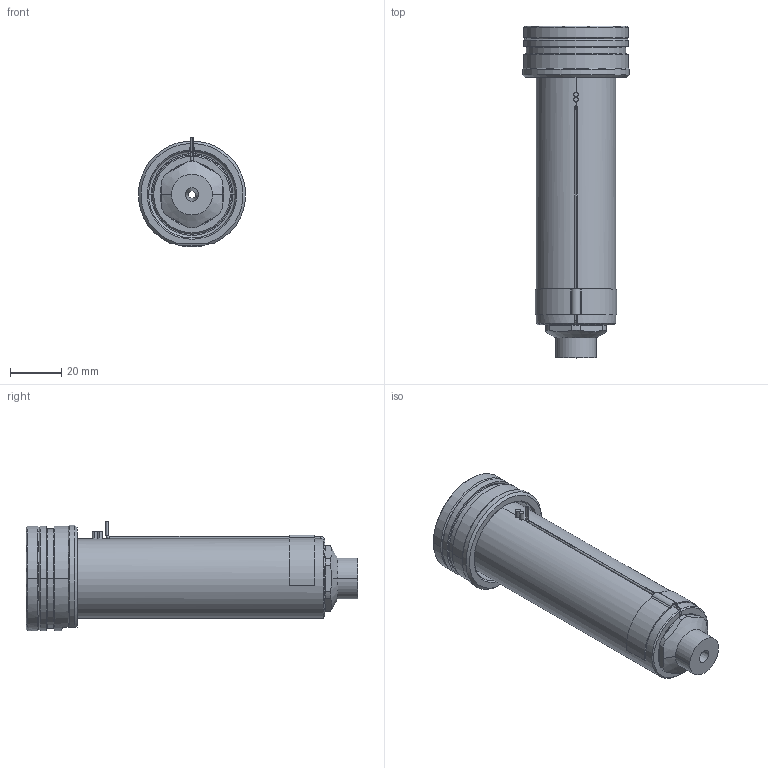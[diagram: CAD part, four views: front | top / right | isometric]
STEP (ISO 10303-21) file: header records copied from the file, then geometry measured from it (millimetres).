
FILE_DESCRIPTION((''),'2;1');
FILE_NAME('EO12_SG_SG_110_SW','2024-02-19T12:28:18',('sundharh'),(''),'CREO PARAMETRIC BY PTC INC, 2023154','CREO PARAMETRIC BY PTC INC, 2023154','');
FILE_SCHEMA(('CONFIG_CONTROL_DESIGN'));
Length unit declared in the file: millimetre
Products named in the file (1): EO12_SG_SG_110_SW
Bounding box: 41.85 x 130 x 43 mm (x, y, z)
Volume: 87596.3 mm3; surface area: 24264.3 mm2
Topology: 2 solids, 3 shells, 177 faces, 448 edges, 273 vertices
Faces by surface type: cylinder 65, plane 46, cone 33, torus 27, sphere 3, bspline 3
Entity records: 6028 total; most frequent: CARTESIAN_POINT 1676, DIRECTION 956, ORIENTED_EDGE 888, EDGE_CURVE 444, AXIS2_PLACEMENT_3D 399, VERTEX_POINT 273, CIRCLE 225, EDGE_LOOP 193
